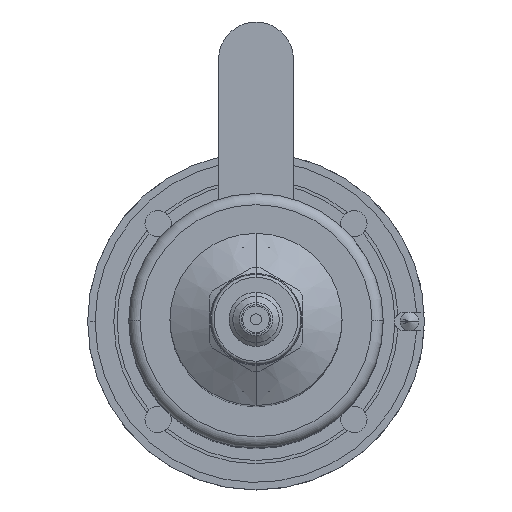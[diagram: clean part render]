
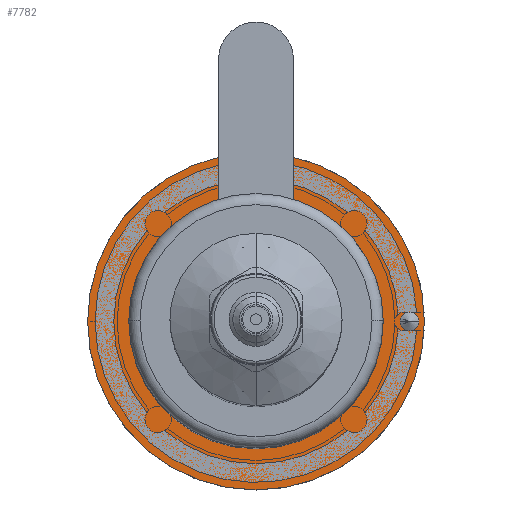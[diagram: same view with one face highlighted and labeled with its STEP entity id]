
A CAD part, top view. The second image highlights one B-rep face of the part: STEP entity #7782.
In plain terms, the highlighted planar face has unit normal (0, 0, 1).
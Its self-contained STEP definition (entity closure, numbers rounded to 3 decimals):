
#498 = AXIS2_PLACEMENT_3D ( 'NONE', #12079, #12078, #12077 ) ;
#851 = AXIS2_PLACEMENT_3D ( 'NONE', #4150, #4149, #4148 ) ;
#853 = AXIS2_PLACEMENT_3D ( 'NONE', #4140, #4139, #4138 ) ;
#854 = AXIS2_PLACEMENT_3D ( 'NONE', #4135, #4134, #4133 ) ;
#856 = AXIS2_PLACEMENT_3D ( 'NONE', #4125, #4124, #4123 ) ;
#858 = AXIS2_PLACEMENT_3D ( 'NONE', #4117, #4116, #4115 ) ;
#890 = AXIS2_PLACEMENT_3D ( 'NONE', #3974, #3973, #3972 ) ;
#891 = AXIS2_PLACEMENT_3D ( 'NONE', #3971, #3970, #3969 ) ;
#892 = AXIS2_PLACEMENT_3D ( 'NONE', #3958, #3957, #3956 ) ;
#2447 = CIRCLE ( 'NONE', #851, 34. ) ;
#2453 = CIRCLE ( 'NONE', #853, 34. ) ;
#2456 = CIRCLE ( 'NONE', #854, 45. ) ;
#2462 = CIRCLE ( 'NONE', #856, 45. ) ;
#2466 = CIRCLE ( 'NONE', #858, 2.5 ) ;
#2537 = CIRCLE ( 'NONE', #890, 2.5 ) ;
#2539 = CIRCLE ( 'NONE', #891, 45. ) ;
#2541 = LINE ( 'NONE', #3966, #2542 ) ;
#2542 = VECTOR ( 'NONE', #3965, 1000. ) ;
#2547 = LINE ( 'NONE', #3960, #2548 ) ;
#2548 = VECTOR ( 'NONE', #3959, 1000. ) ;
#2549 = CIRCLE ( 'NONE', #892, 34. ) ;
#3956 = DIRECTION ( 'NONE',  ( -1., 0., 0. ) ) ;
#3957 = DIRECTION ( 'NONE',  ( 0., 0., -1. ) ) ;
#3958 = CARTESIAN_POINT ( 'NONE',  ( 0., 0., 18. ) ) ;
#3959 = DIRECTION ( 'NONE',  ( 0., -1., 0. ) ) ;
#3960 = CARTESIAN_POINT ( 'NONE',  ( 10., 0., 18. ) ) ;
#3965 = DIRECTION ( 'NONE',  ( 0., 1., 0. ) ) ;
#3966 = CARTESIAN_POINT ( 'NONE',  ( -10., 0., 18. ) ) ;
#3969 = DIRECTION ( 'NONE',  ( -1., 0., 0. ) ) ;
#3970 = DIRECTION ( 'NONE',  ( 0., 0., -1. ) ) ;
#3971 = CARTESIAN_POINT ( 'NONE',  ( 0., 0., 18. ) ) ;
#3972 = DIRECTION ( 'NONE',  ( -1., 0., 0. ) ) ;
#3973 = DIRECTION ( 'NONE',  ( 0., 0., 1. ) ) ;
#3974 = CARTESIAN_POINT ( 'NONE',  ( 41., 0., 18. ) ) ;
#4115 = DIRECTION ( 'NONE',  ( -1., 0., 0. ) ) ;
#4116 = DIRECTION ( 'NONE',  ( 0., 0., 1. ) ) ;
#4117 = CARTESIAN_POINT ( 'NONE',  ( 41., 0., 18. ) ) ;
#4123 = DIRECTION ( 'NONE',  ( -1., 0., 0. ) ) ;
#4124 = DIRECTION ( 'NONE',  ( 0., 0., -1. ) ) ;
#4125 = CARTESIAN_POINT ( 'NONE',  ( 0., 0., 18. ) ) ;
#4133 = DIRECTION ( 'NONE',  ( -1., 0., 0. ) ) ;
#4134 = DIRECTION ( 'NONE',  ( 0., 0., -1. ) ) ;
#4135 = CARTESIAN_POINT ( 'NONE',  ( 0., 0., 18. ) ) ;
#4138 = DIRECTION ( 'NONE',  ( -1., 0., 0. ) ) ;
#4139 = DIRECTION ( 'NONE',  ( 0., 0., -1. ) ) ;
#4140 = CARTESIAN_POINT ( 'NONE',  ( 0., 0., 18. ) ) ;
#4148 = DIRECTION ( 'NONE',  ( -1., 0., 0. ) ) ;
#4149 = DIRECTION ( 'NONE',  ( 0., 0., -1. ) ) ;
#4150 = CARTESIAN_POINT ( 'NONE',  ( 0., 0., 18. ) ) ;
#7025 = ORIENTED_EDGE ( 'NONE', *, *, #9554, .F. ) ;
#7026 = ORIENTED_EDGE ( 'NONE', *, *, #9502, .F. ) ;
#7027 = ORIENTED_EDGE ( 'NONE', *, *, #9499, .F. ) ;
#7028 = ORIENTED_EDGE ( 'NONE', *, *, #9555, .F. ) ;
#7029 = ORIENTED_EDGE ( 'NONE', *, *, #9557, .T. ) ;
#7030 = ORIENTED_EDGE ( 'NONE', *, *, #9493, .T. ) ;
#7031 = ORIENTED_EDGE ( 'NONE', *, *, #9560, .T. ) ;
#7032 = ORIENTED_EDGE ( 'NONE', *, *, #9561, .T. ) ;
#7033 = ORIENTED_EDGE ( 'NONE', *, *, #9489, .T. ) ;
#7043 = ORIENTED_EDGE ( 'NONE', *, *, #9495, .F. ) ;
#7053 = EDGE_LOOP ( 'NONE', ( #7026, #7025 ) ) ;
#7054 = EDGE_LOOP ( 'NONE', ( #7043, #7031, #7033, #7032, #7030, #7029, #7028, #7027 ) ) ;
#7782 = ADVANCED_FACE ( 'NONE', ( #18883, #18884 ), #12080, .F. ) ;
#9489 = EDGE_CURVE ( 'NONE', #12999, #12821, #2447, .T. ) ;
#9493 = EDGE_CURVE ( 'NONE', #12994, #12827, #2453, .T. ) ;
#9495 = EDGE_CURVE ( 'NONE', #12833, #12853, #2456, .T. ) ;
#9499 = EDGE_CURVE ( 'NONE', #12853, #12966, #2462, .T. ) ;
#9502 = EDGE_CURVE ( 'NONE', #13014, #12925, #2466, .T. ) ;
#9554 = EDGE_CURVE ( 'NONE', #12925, #13014, #2537, .T. ) ;
#9555 = EDGE_CURVE ( 'NONE', #12966, #12828, #2539, .T. ) ;
#9557 = EDGE_CURVE ( 'NONE', #12827, #12828, #2541, .T. ) ;
#9560 = EDGE_CURVE ( 'NONE', #12833, #12999, #2547, .T. ) ;
#9561 = EDGE_CURVE ( 'NONE', #12821, #12994, #2549, .T. ) ;
#12077 = DIRECTION ( 'NONE',  ( -1., 0., 0. ) ) ;
#12078 = DIRECTION ( 'NONE',  ( 0., 0., -1. ) ) ;
#12079 = CARTESIAN_POINT ( 'NONE',  ( -45., 0., 18. ) ) ;
#12080 = PLANE ( 'NONE',  #498 ) ;
#12821 = VERTEX_POINT ( 'NONE', #18067 ) ;
#12827 = VERTEX_POINT ( 'NONE', #18050 ) ;
#12828 = VERTEX_POINT ( 'NONE', #18048 ) ;
#12833 = VERTEX_POINT ( 'NONE', #18038 ) ;
#12853 = VERTEX_POINT ( 'NONE', #18018 ) ;
#12925 = VERTEX_POINT ( 'NONE', #18549 ) ;
#12966 = VERTEX_POINT ( 'NONE', #18498 ) ;
#12994 = VERTEX_POINT ( 'NONE', #18456 ) ;
#12999 = VERTEX_POINT ( 'NONE', #18448 ) ;
#13014 = VERTEX_POINT ( 'NONE', #18429 ) ;
#18018 = CARTESIAN_POINT ( 'NONE',  ( 45., 0., 18. ) ) ;
#18038 = CARTESIAN_POINT ( 'NONE',  ( 10., 43.875, 18. ) ) ;
#18048 = CARTESIAN_POINT ( 'NONE',  ( -10., 43.875, 18. ) ) ;
#18050 = CARTESIAN_POINT ( 'NONE',  ( -10., 32.496, 18. ) ) ;
#18067 = CARTESIAN_POINT ( 'NONE',  ( 34., 0., 18. ) ) ;
#18429 = CARTESIAN_POINT ( 'NONE',  ( 43.5, 0., 18. ) ) ;
#18448 = CARTESIAN_POINT ( 'NONE',  ( 10., 32.496, 18. ) ) ;
#18456 = CARTESIAN_POINT ( 'NONE',  ( -34., 0., 18. ) ) ;
#18498 = CARTESIAN_POINT ( 'NONE',  ( -45., 0., 18. ) ) ;
#18549 = CARTESIAN_POINT ( 'NONE',  ( 38.5, 0., 18. ) ) ;
#18883 = FACE_OUTER_BOUND ( 'NONE', #7054, .T. ) ;
#18884 = FACE_BOUND ( 'NONE', #7053, .T. ) ;
